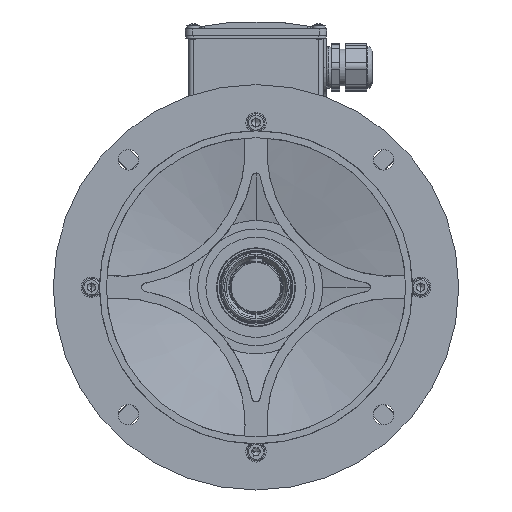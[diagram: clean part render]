
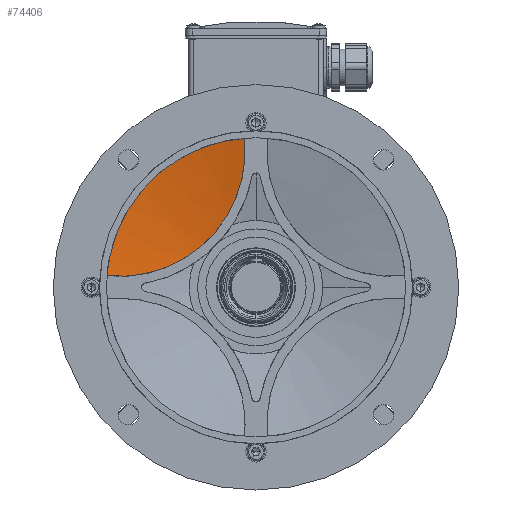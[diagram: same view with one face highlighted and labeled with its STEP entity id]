
A CAD part, left-side view. The second image highlights one B-rep face of the part: STEP entity #74406.
In plain terms, the highlighted conical face has half-angle 77.438 degrees and reference radius 110 mm.
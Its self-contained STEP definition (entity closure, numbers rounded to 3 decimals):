
#8583 = CARTESIAN_POINT ( 'NONE',  ( -11.041, 8.195, 106.277 ) ) ;
#8588 = CARTESIAN_POINT ( 'NONE',  ( -11.8, 8.553, 109.667 ) ) ;
#8590 = CARTESIAN_POINT ( 'NONE',  ( -10.286, 8.027, 102.894 ) ) ;
#8591 = CARTESIAN_POINT ( 'NONE',  ( -8.787, 8.062, 96.143 ) ) ;
#8592 = CARTESIAN_POINT ( 'NONE',  ( -8.043, 8.265, 92.775 ) ) ;
#8593 = CARTESIAN_POINT ( 'NONE',  ( -6.937, 8.85, 87.733 ) ) ;
#8594 = CARTESIAN_POINT ( 'NONE',  ( -6.57, 9.091, 86.054 ) ) ;
#8595 = CARTESIAN_POINT ( 'NONE',  ( -5.841, 9.67, 82.699 ) ) ;
#8596 = CARTESIAN_POINT ( 'NONE',  ( -5.479, 10.007, 81.02 ) ) ;
#8597 = CARTESIAN_POINT ( 'NONE',  ( -4.413, 11.153, 76.048 ) ) ;
#8598 = CARTESIAN_POINT ( 'NONE',  ( -3.728, 12.094, 72.796 ) ) ;
#8599 = CARTESIAN_POINT ( 'NONE',  ( -2.424, 14.329, 66.416 ) ) ;
#8600 = CARTESIAN_POINT ( 'NONE',  ( -1.805, 15.621, 63.287 ) ) ;
#8601 = CARTESIAN_POINT ( 'NONE',  ( -0.953, 17.831, 58.683 ) ) ;
#8602 = CARTESIAN_POINT ( 'NONE',  ( -0.681, 18.612, 57.163 ) ) ;
#8603 = CARTESIAN_POINT ( 'NONE',  ( -0.298, 19.855, 54.906 ) ) ;
#8604 = CARTESIAN_POINT ( 'NONE',  ( -0.174, 20.28, 54.158 ) ) ;
#8605 = CARTESIAN_POINT ( 'NONE',  ( 0.065, 21.156, 52.668 ) ) ;
#8606 = CARTESIAN_POINT ( 'NONE',  ( 0.18, 21.606, 51.926 ) ) ;
#8607 = CARTESIAN_POINT ( 'NONE',  ( 0.727, 23.899, 48.264 ) ) ;
#8608 = CARTESIAN_POINT ( 'NONE',  ( 1.077, 25.884, 45.46 ) ) ;
#8609 = CARTESIAN_POINT ( 'NONE',  ( 1.557, 30.15, 40.094 ) ) ;
#8610 = CARTESIAN_POINT ( 'NONE',  ( 1.685, 32.43, 37.532 ) ) ;
#8611 = CARTESIAN_POINT ( 'NONE',  ( 1.691, 36.076, 33.874 ) ) ;
#8612 = CARTESIAN_POINT ( 'NONE',  ( 1.662, 37.328, 32.685 ) ) ;
#8613 = CARTESIAN_POINT ( 'NONE',  ( 1.573, 39.265, 30.949 ) ) ;
#8614 = CARTESIAN_POINT ( 'NONE',  ( 1.535, 39.92, 30.379 ) ) ;
#8615 = CARTESIAN_POINT ( 'NONE',  ( 1.445, 41.25, 29.253 ) ) ;
#8616 = CARTESIAN_POINT ( 'NONE',  ( 1.392, 41.925, 28.697 ) ) ;
#8617 = CARTESIAN_POINT ( 'NONE',  ( 1.093, 45.328, 25.979 ) ) ;
#8618 = CARTESIAN_POINT ( 'NONE',  ( 0.743, 48.142, 23.984 ) ) ;
#8619 = CARTESIAN_POINT ( 'NONE',  ( -0.12, 53.948, 20.332 ) ) ;
#8620 = CARTESIAN_POINT ( 'NONE',  ( -0.632, 56.941, 18.676 ) ) ;
#8621 = CARTESIAN_POINT ( 'NONE',  ( -1.486, 61.568, 16.442 ) ) ;
#8622 = CARTESIAN_POINT ( 'NONE',  ( -1.785, 63.135, 15.739 ) ) ;
#8623 = CARTESIAN_POINT ( 'NONE',  ( -2.408, 66.311, 14.42 ) ) ;
#8624 = CARTESIAN_POINT ( 'NONE',  ( -2.729, 67.908, 13.808 ) ) ;
#8625 = CARTESIAN_POINT ( 'NONE',  ( -3.714, 72.732, 12.113 ) ) ;
#8626 = CARTESIAN_POINT ( 'NONE',  ( -4.4, 75.987, 11.17 ) ) ;
#8627 = CARTESIAN_POINT ( 'NONE',  ( -5.812, 82.577, 9.646 ) ) ;
#8628 = CARTESIAN_POINT ( 'NONE',  ( -6.538, 85.913, 9.065 ) ) ;
#8629 = CARTESIAN_POINT ( 'NONE',  ( -7.649, 90.98, 8.471 ) ) ;
#8630 = CARTESIAN_POINT ( 'NONE',  ( -8.024, 92.683, 8.319 ) ) ;
#8631 = CARTESIAN_POINT ( 'NONE',  ( -8.775, 96.083, 8.111 ) ) ;
#8632 = CARTESIAN_POINT ( 'NONE',  ( -9.151, 97.783, 8.055 ) ) ;
#8633 = CARTESIAN_POINT ( 'NONE',  ( -10.283, 102.879, 8.026 ) ) ;
#8634 = CARTESIAN_POINT ( 'NONE',  ( -11.04, 106.274, 8.194 ) ) ;
#8635 = CARTESIAN_POINT ( 'NONE',  ( -11.8, 109.667, 8.553 ) ) ;
#15964 = ORIENTED_EDGE ( 'NONE', *, *, #130736, .F. ) ;
#16539 = ORIENTED_EDGE ( 'NONE', *, *, #74483, .T. ) ;
#41312 = EDGE_LOOP ( 'NONE', ( #15964, #16539 ) ) ;
#69885 = B_SPLINE_CURVE_WITH_KNOTS ( 'NONE', 3,
 ( #8588, #8583, #8590, #8591, #8592, #8593, #8594, #8595, #8596, #8597, #8598, #8599, #8600, #8601, #8602, #8603, #8604, #8605, #8606, #8607, #8608, #8609, #8610, #8611, #8612, #8613, #8614, #8615, #8616, #8617, #8618, #8619, #8620, #8621, #8622, #8623, #8624, #8625, #8626, #8627, #8628, #8629, #8630, #8631, #8632, #8633, #8634, #8635 ),
 .UNSPECIFIED., .F., .F.,
 ( 4, 2, 2, 2, 2, 2, 2, 2, 2, 2, 2, 2, 2, 2, 2, 2, 2, 2, 2, 2, 2, 2, 2, 4 ),
 ( 0., 0.01, 0.021, 0.026, 0.031, 0.041, 0.052, 0.057, 0.06, 0.062, 0.073, 0.083, 0.088, 0.091, 0.093, 0.104, 0.114, 0.119, 0.124, 0.135, 0.145, 0.15, 0.155, 0.166 ),
 .UNSPECIFIED. ) ;
#74406 = ADVANCED_FACE ( 'NONE', ( #118956 ), #118971, .F. ) ;
#74483 = EDGE_CURVE ( 'NONE', #77957, #77960, #119169, .T. ) ;
#77957 = VERTEX_POINT ( 'NONE', #90090 ) ;
#77960 = VERTEX_POINT ( 'NONE', #90109 ) ;
#90090 = CARTESIAN_POINT ( 'NONE',  ( -11.8, 8.553, 109.667 ) ) ;
#90109 = CARTESIAN_POINT ( 'NONE',  ( -11.8, 109.667, 8.553 ) ) ;
#108193 = AXIS2_PLACEMENT_3D ( 'NONE', #122399, #122400, #122398 ) ;
#108316 = AXIS2_PLACEMENT_3D ( 'NONE', #122757, #122758, #122759 ) ;
#118956 = FACE_OUTER_BOUND ( 'NONE', #41312, .T. ) ;
#118971 = CONICAL_SURFACE ( 'NONE', #108193, 110., 1.352 ) ;
#119169 = CIRCLE ( 'NONE', #108316, 110. ) ;
#122398 = DIRECTION ( 'NONE',  ( 0., 0., 1. ) ) ;
#122399 = CARTESIAN_POINT ( 'NONE',  ( -11.8, 0., 0. ) ) ;
#122400 = DIRECTION ( 'NONE',  ( -1., 0., 0. ) ) ;
#122757 = CARTESIAN_POINT ( 'NONE',  ( -11.8, 0., 0. ) ) ;
#122758 = DIRECTION ( 'NONE',  ( -1., 0., 0. ) ) ;
#122759 = DIRECTION ( 'NONE',  ( 0., 0., 1. ) ) ;
#130736 = EDGE_CURVE ( 'NONE', #77957, #77960, #69885, .T. ) ;
